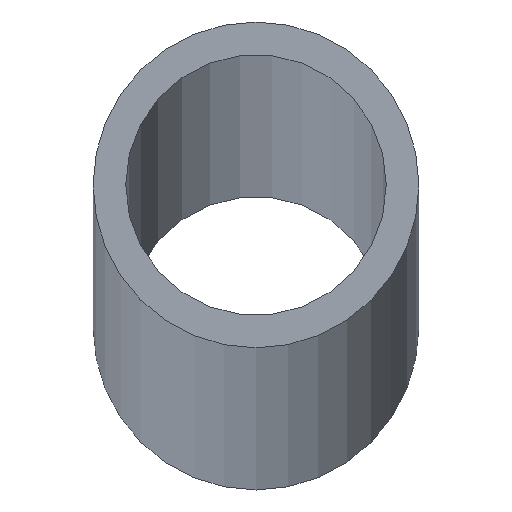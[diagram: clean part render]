
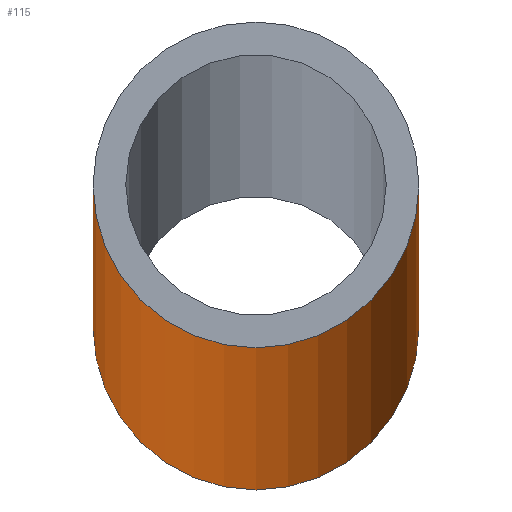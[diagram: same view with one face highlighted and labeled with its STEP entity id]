
A CAD part, top view. The second image highlights one B-rep face of the part: STEP entity #115.
In plain terms, the highlighted cylindrical face has radius 4 mm (diameter 8 mm), a partial arc.
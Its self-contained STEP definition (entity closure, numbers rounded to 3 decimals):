
#10 = VECTOR ( 'NONE', #30, 1000. ) ;
#19 = CYLINDRICAL_SURFACE ( 'NONE', #90, 4. ) ;
#20 = VERTEX_POINT ( 'NONE', #148 ) ;
#22 = CARTESIAN_POINT ( 'NONE',  ( -4., 0., 2000. ) ) ;
#30 = DIRECTION ( 'NONE',  ( 0., 0., -1. ) ) ;
#31 = DIRECTION ( 'NONE',  ( 0., 0., -1. ) ) ;
#33 = ORIENTED_EDGE ( 'NONE', *, *, #73, .T. ) ;
#39 = DIRECTION ( 'NONE',  ( 0., 0., -1. ) ) ;
#41 = DIRECTION ( 'NONE',  ( 0., 0., 1. ) ) ;
#43 = CIRCLE ( 'NONE', #81, 4. ) ;
#48 = VERTEX_POINT ( 'NONE', #129 ) ;
#61 = EDGE_CURVE ( 'NONE', #201, #48, #63, .T. ) ;
#63 = LINE ( 'NONE', #22, #138 ) ;
#67 = ORIENTED_EDGE ( 'NONE', *, *, #61, .T. ) ;
#73 = EDGE_CURVE ( 'NONE', #48, #202, #199, .T. ) ;
#75 = ORIENTED_EDGE ( 'NONE', *, *, #94, .F. ) ;
#81 = AXIS2_PLACEMENT_3D ( 'NONE', #107, #41, #156 ) ;
#86 = EDGE_CURVE ( 'NONE', #20, #202, #195, .T. ) ;
#90 = AXIS2_PLACEMENT_3D ( 'NONE', #153, #31, #177 ) ;
#92 = CARTESIAN_POINT ( 'NONE',  ( -4., 0., 2000. ) ) ;
#94 = EDGE_CURVE ( 'NONE', #201, #20, #43, .T. ) ;
#95 = CARTESIAN_POINT ( 'NONE',  ( 0., 0., 0. ) ) ;
#107 = CARTESIAN_POINT ( 'NONE',  ( 0., 0., 2000. ) ) ;
#113 = AXIS2_PLACEMENT_3D ( 'NONE', #95, #133, #194 ) ;
#115 = ADVANCED_FACE ( 'NONE', ( #142 ), #19, .T. ) ;
#129 = CARTESIAN_POINT ( 'NONE',  ( -4., 0., 0. ) ) ;
#133 = DIRECTION ( 'NONE',  ( 0., 0., 1. ) ) ;
#138 = VECTOR ( 'NONE', #39, 1000. ) ;
#142 = FACE_OUTER_BOUND ( 'NONE', #143, .T. ) ;
#143 = EDGE_LOOP ( 'NONE', ( #170, #75, #67, #33 ) ) ;
#148 = CARTESIAN_POINT ( 'NONE',  ( 4., 0., 2000. ) ) ;
#153 = CARTESIAN_POINT ( 'NONE',  ( 0., 0., 2000. ) ) ;
#156 = DIRECTION ( 'NONE',  ( 1., 0., 0. ) ) ;
#170 = ORIENTED_EDGE ( 'NONE', *, *, #86, .F. ) ;
#177 = DIRECTION ( 'NONE',  ( -1., 0., 0. ) ) ;
#188 = CARTESIAN_POINT ( 'NONE',  ( 4., 0., 2000. ) ) ;
#194 = DIRECTION ( 'NONE',  ( 1., 0., 0. ) ) ;
#195 = LINE ( 'NONE', #188, #10 ) ;
#199 = CIRCLE ( 'NONE', #113, 4. ) ;
#201 = VERTEX_POINT ( 'NONE', #92 ) ;
#202 = VERTEX_POINT ( 'NONE', #210 ) ;
#210 = CARTESIAN_POINT ( 'NONE',  ( 4., 0., 0. ) ) ;
